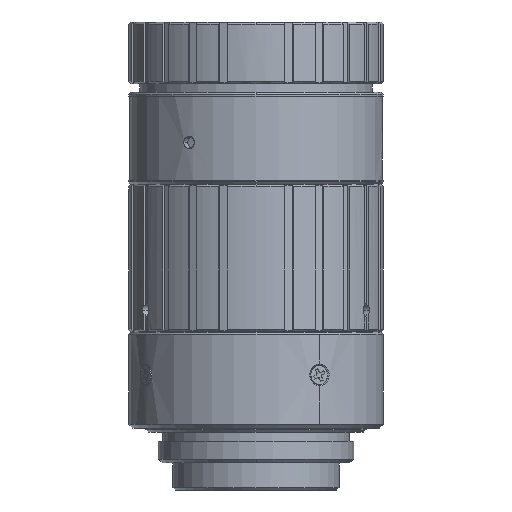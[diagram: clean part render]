
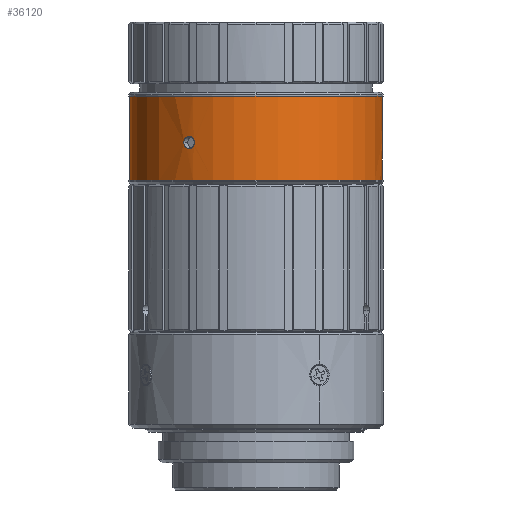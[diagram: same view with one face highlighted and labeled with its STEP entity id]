
A CAD part, front view. The second image highlights one B-rep face of the part: STEP entity #36120.
In plain terms, the highlighted cylindrical face has radius 16.35 mm (diameter 32.7 mm), a partial arc.
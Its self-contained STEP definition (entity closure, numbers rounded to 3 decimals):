
#35070=CARTESIAN_POINT('',(0.,0.,-60.467));
#35080=DIRECTION('',(0.,0.,1.));
#35090=DIRECTION('',(1.,0.,0.));
#35100=AXIS2_PLACEMENT_3D('',#35070,#35080,#35090);
#35110=CIRCLE('',#35100,16.35);
#35120=CARTESIAN_POINT('',(-16.35,0.,
-60.467));
#35130=VERTEX_POINT('',#35120);
#35140=CARTESIAN_POINT('',(16.35,0.,
-60.467));
#35150=VERTEX_POINT('',#35140);
#35180=EDGE_CURVE('',#35150,#35130,#35110,.T.);
#35230=CARTESIAN_POINT('',(0.,0.,-60.467));
#35240=DIRECTION('',(0.,0.,1.));
#35250=DIRECTION('',(1.,0.,0.));
#35260=AXIS2_PLACEMENT_3D('',#35230,#35240,#35250);
#35270=CYLINDRICAL_SURFACE('',#35260,16.35);
#35280=CARTESIAN_POINT('',(16.35,0.,
-60.467));
#35290=DIRECTION('',(0.,0.,1.));
#35300=VECTOR('',#35290,1.);
#35310=LINE('',#35280,#35300);
#35320=CARTESIAN_POINT('',(16.35,0.,
-55.028));
#35330=VERTEX_POINT('',#35320);
#35340=EDGE_CURVE('',#35150,#35330,#35310,.T.);
#35350=ORIENTED_EDGE('',*,*,#35340,.F.);
#35360=CARTESIAN_POINT('',(16.35,0.,
-53.907));
#35370=CARTESIAN_POINT('',(16.35,0.003,
-53.904));
#35380=CARTESIAN_POINT('',(16.35,0.006,
-53.9));
#35390=CARTESIAN_POINT('',(16.35,0.158,
-53.751));
#35400=CARTESIAN_POINT('',(16.347,0.366,
-53.666));
#35410=CARTESIAN_POINT('',(16.332,0.788,
-53.669));
#35420=CARTESIAN_POINT('',(16.32,0.994,
-53.758));
#35430=CARTESIAN_POINT('',(16.3,1.286,
-54.055));
#35440=CARTESIAN_POINT('',(16.292,1.371,
-54.265));
#35450=CARTESIAN_POINT('',(16.293,1.368,
-54.682));
#35460=CARTESIAN_POINT('',(16.3,1.281,
-54.889));
#35470=CARTESIAN_POINT('',(16.321,0.981,
-55.185));
#35480=CARTESIAN_POINT('',(16.333,0.773,
-55.269));
#35490=CARTESIAN_POINT('',(16.347,0.355,
-55.266));
#35500=CARTESIAN_POINT('',(16.35,0.148,
-55.179));
#35510=CARTESIAN_POINT('',(16.35,0.,
-55.028));
#35520=B_SPLINE_CURVE_WITH_KNOTS('',3,(#35360,#35370,#35380,#35390,
#35400,#35410,#35420,#35430,#35440,#35450,#35460,#35470,#35480,#35490,
#35500,#35510),.UNSPECIFIED.,.F.,.F.,(4,2,2,2,2,2,2,4),(0.,
0.004,0.17,0.336,0.502
,0.668,0.834,1.),.UNSPECIFIED.);
#35530=CARTESIAN_POINT('',(16.293,1.369,
-54.467));
#35540=VERTEX_POINT('',#35530);
#35550=EDGE_CURVE('',#35540,#35330,#35520,.T.);
#35560=ORIENTED_EDGE('',*,*,#35550,.T.);
#35570=CARTESIAN_POINT('',(16.35,0.,
-53.907));
#35580=VERTEX_POINT('',#35570);
#35590=EDGE_CURVE('',#35580,#35540,#35520,.T.);
#35600=ORIENTED_EDGE('',*,*,#35590,.T.);
#35610=CARTESIAN_POINT('',(16.35,0.,
-49.567));
#35620=VERTEX_POINT('',#35610);
#35630=EDGE_CURVE('',#35580,#35620,#35310,.T.);
#35640=ORIENTED_EDGE('',*,*,#35630,.F.);
#35650=CARTESIAN_POINT('',(0.,0.,-49.567));
#35660=DIRECTION('',(0.,0.,1.));
#35670=DIRECTION('',(1.,0.,0.));
#35680=AXIS2_PLACEMENT_3D('',#35650,#35660,#35670);
#35690=CIRCLE('',#35680,16.35);
#35700=CARTESIAN_POINT('',(-16.35,0.,
-49.567));
#35710=VERTEX_POINT('',#35700);
#35720=EDGE_CURVE('',#35620,#35710,#35690,.T.);
#35730=ORIENTED_EDGE('',*,*,#35720,.F.);
#35740=CARTESIAN_POINT('',(-16.35,0.,
-60.467));
#35750=DIRECTION('',(0.,0.,1.));
#35760=VECTOR('',#35750,1.);
#35770=LINE('',#35740,#35760);
#35780=EDGE_CURVE('',#35130,#35710,#35770,.T.);
#35790=ORIENTED_EDGE('',*,*,#35780,.T.);
#35800=ORIENTED_EDGE('',*,*,#35180,.T.);
#35810=EDGE_LOOP('',(#35800,#35790,#35730,#35640,#35600,#35560,#35350));
#35820=FACE_OUTER_BOUND('',#35810,.T.);
#35830=CARTESIAN_POINT('',(-7.975,14.273,
-54.679));
#35840=CARTESIAN_POINT('',(-7.975,14.273,
-54.256));
#35850=CARTESIAN_POINT('',(-8.051,14.231,
-54.049));
#35860=CARTESIAN_POINT('',(-8.307,14.083,
-53.754));
#35870=CARTESIAN_POINT('',(-8.487,13.976,
-53.667));
#35880=CARTESIAN_POINT('',(-8.841,13.755,
-53.667));
#35890=CARTESIAN_POINT('',(-9.015,13.641,
-53.752));
#35900=CARTESIAN_POINT('',(-9.262,13.474,
-54.051));
#35910=CARTESIAN_POINT('',(-9.332,13.425,
-54.258));
#35920=CARTESIAN_POINT('',(-9.332,13.425,
-54.676));
#35930=CARTESIAN_POINT('',(-9.261,13.475,
-54.885));
#35940=CARTESIAN_POINT('',(-9.017,13.64,
-55.18));
#35950=CARTESIAN_POINT('',(-8.844,13.753,
-55.267));
#35960=CARTESIAN_POINT('',(-8.486,13.977,
-55.268));
#35970=CARTESIAN_POINT('',(-8.308,14.083,
-55.181));
#35980=CARTESIAN_POINT('',(-8.052,14.231,
-54.886));
#35990=CARTESIAN_POINT('',(-7.975,14.273,
-54.679));
#36000=CARTESIAN_POINT('',(-7.975,14.273,
-54.256));
#36010=B_SPLINE_CURVE_WITH_KNOTS('',3,(#35830,#35840,#35850,#35860,
#35870,#35880,#35890,#35900,#35910,#35920,#35930,#35940,#35950,#35960,
#35970,#35980,#35990,#36000),.UNSPECIFIED.,.T.,.F.,(2,2,2,2,2,2,2,2,2,2,
2),(-0.125,0.,0.125,0.25,0.375,0.5,0.625,0.75,0.875,1.,1.125),
.UNSPECIFIED.);
#36020=CARTESIAN_POINT('',(-7.975,14.273,
-54.467));
#36030=VERTEX_POINT('',#36020);
#36040=CARTESIAN_POINT('',(-9.332,13.425,
-54.467));
#36050=VERTEX_POINT('',#36040);
#36060=EDGE_CURVE('',#36030,#36050,#36010,.T.);
#36070=ORIENTED_EDGE('',*,*,#36060,.T.);
#36080=EDGE_CURVE('',#36050,#36030,#36010,.T.);
#36090=ORIENTED_EDGE('',*,*,#36080,.T.);
#36100=EDGE_LOOP('',(#36090,#36070));
#36110=FACE_BOUND('',#36100,.T.);
#36120=ADVANCED_FACE('',(#35820,#36110),#35270,.T.);
